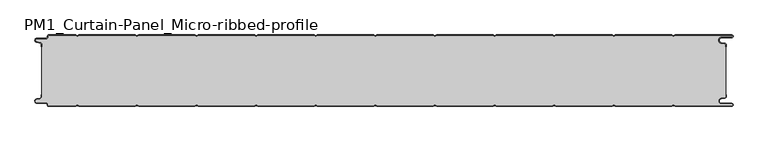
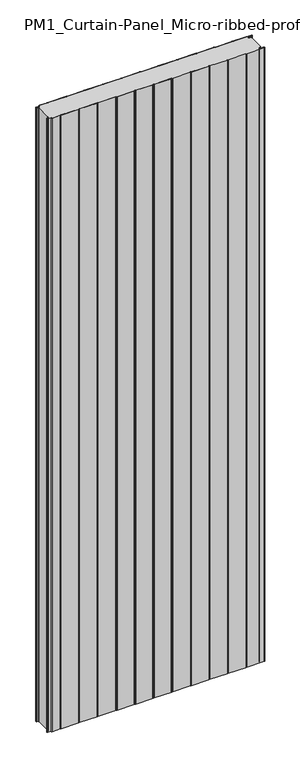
"""IFC4 building model written with IfcOpenShell, lengths in millimetres: plate geometry, PM1_Curtain-Panel_Micro-ribbed-profile : ACH_PM1_Stone-wool-Panel_120M."""

from ifc_helpers import new_model, si_unit, point, frame_2d, origin, origin_with_axes, place, context, project, spatial, polyline, circle_curve, trimmed, segment, composite_curve, outline, extrude, source, transform, mapped, element, save


def pm1_curtain_panel_micro_ribbed_profile_324b2d25(model_context):
    return source(origin(), model_context, "Body", "SweptSolid", [
        extrude(outline(composite_curve([segment(trimmed(circle_curve(frame_2d((-577.0, -15.878557)), 2.0), [point((-575.0, -15.878557))], [point((-576.5500978, -13.9298169))], True, "CARTESIAN"), True, "CONTINUOUS"), segment(polyline([(-576.5500978, -13.9298169), (-582.7098239, -12.507732)]), True, "CONTINUOUS"), segment(trimmed(circle_curve(frame_2d((-581.9, -9.0)), 3.6), [point((-582.7098239, -12.507732))], [point((-581.9, -5.4))], False, "CARTESIAN"), True, "CONTINUOUS"), segment(polyline([(-581.9, -5.4), (-566.4, -5.4)]), True, "CONTINUOUS"), segment(trimmed(circle_curve(frame_2d((-566.4, -3.4)), 2.0), [point((-566.4, -5.4))], [point((-564.4, -3.4))], True, "CARTESIAN"), True, "CONTINUOUS"), segment(polyline([(-564.4, -3.4), (-564.4, -2.0)]), True, "CONTINUOUS"), segment(trimmed(circle_curve(frame_2d((-562.4, -2.0)), 2.0), [point((-564.4, -2.0))], [point((-562.4, 0.0))], False, "CARTESIAN"), True, "CONTINUOUS"), segment(polyline([(-562.4, 0.0), (-517.0999995, 0.0), (-514.4, -1.5588455), (-511.7000005, 0.0), (-417.0999995, 0.0), (-414.4, -1.5588455), (-411.7000005, 0.0), (-317.0999995, 0.0), (-314.4, -1.5588455), (-311.7000005, 0.0), (-217.0999995, 0.0), (-214.4, -1.5588455), (-211.7000005, 0.0), (-117.0999995, 0.0), (-114.4, -1.5588455), (-111.7000005, 0.0), (-17.0999995, 0.0), (-14.4, -1.5588455), (-11.7000005, 0.0), (82.9000005, 0.0), (85.6, -1.5588455), (88.2999995, 0.0), (182.9000005, 0.0), (185.6, -1.5588455), (188.2999995, 0.0), (282.9000005, 0.0), (285.6, -1.5588455), (288.2999995, 0.0), (382.9000005, 0.0), (385.6, -1.5588455), (388.2999995, 0.0), (482.9000005, 0.0), (485.6, -1.5588455), (488.2999995, 0.0), (583.1, 0.0)]), True, "CONTINUOUS"), segment(trimmed(circle_curve(frame_2d((583.1, -2.5)), 2.5), [point((583.1, 0.0))], [point((583.1, -5.0))], False, "CARTESIAN"), True, "CONTINUOUS"), segment(polyline([(583.1, -5.0), (566.1, -5.0)]), True, "CONTINUOUS"), segment(trimmed(circle_curve(frame_2d((566.1, -9.0)), 4.0), [point((566.1, -5.0))], [point((565.405407, -12.939231))], True, "CARTESIAN"), True, "CONTINUOUS"), segment(polyline([(565.405407, -12.939231), (571.8514855, -14.0758491)]), True, "CONTINUOUS"), segment(trimmed(circle_curve(frame_2d((571.4, -16.6363492)), 2.6), [point((571.8514855, -14.0758491))], [point((574.0, -16.6363492))], False, "CARTESIAN"), True, "CONTINUOUS"), segment(polyline([(574.0, -16.6363492), (574.0, -20.0), (573.2, -20.0), (573.2, -16.6363492)]), True, "CONTINUOUS"), segment(trimmed(circle_curve(frame_2d((571.4, -16.6363492)), 1.8), [point((573.2, -16.6363492))], [point((571.7125669, -14.8636953))], True, "CARTESIAN"), True, "CONTINUOUS"), segment(polyline([(571.7125669, -14.8636953), (565.2664884, -13.7270772)]), True, "CONTINUOUS"), segment(trimmed(circle_curve(frame_2d((566.1, -9.0)), 4.8), [point((565.2664884, -13.7270772))], [point((566.1, -4.2))], False, "CARTESIAN"), True, "CONTINUOUS"), segment(polyline([(566.1, -4.2), (583.1, -4.2)]), True, "CONTINUOUS"), segment(trimmed(circle_curve(frame_2d((583.1, -2.5)), 1.7), [point((583.1, -4.2))], [point((583.1, -0.8))], True, "CARTESIAN"), True, "CONTINUOUS"), segment(polyline([(583.1, -0.8), (488.5143588, -0.8), (485.6, -2.482606), (482.6856412, -0.8), (388.5143588, -0.8), (385.6, -2.482606), (382.6856412, -0.8), (288.5143588, -0.8), (285.6, -2.482606), (282.6856412, -0.8), (188.5143588, -0.8), (185.6, -2.482606), (182.6856412, -0.8), (88.5143588, -0.8), (85.6, -2.482606), (82.6856412, -0.8), (-11.4856412, -0.8), (-14.4, -2.482606), (-17.3143588, -0.8), (-111.4856412, -0.8), (-114.4, -2.482606), (-117.3143588, -0.8), (-211.4856412, -0.8), (-214.4, -2.482606), (-217.3143588, -0.8), (-311.4856412, -0.8), (-314.4, -2.482606), (-317.3143588, -0.8), (-411.4856412, -0.8), (-414.4, -2.482606), (-417.3143588, -0.8), (-511.4856412, -0.8), (-514.4, -2.482606), (-517.3143588, -0.8), (-562.4, -0.8)]), True, "CONTINUOUS"), segment(trimmed(circle_curve(frame_2d((-562.4, -2.0)), 1.2), [point((-562.4, -0.8))], [point((-563.6, -2.0))], True, "CARTESIAN"), True, "CONTINUOUS"), segment(polyline([(-563.6, -2.0), (-563.6, -3.4)]), True, "CONTINUOUS"), segment(trimmed(circle_curve(frame_2d((-566.4, -3.4)), 2.8), [point((-563.6, -3.4))], [point((-566.4, -6.2))], False, "CARTESIAN"), True, "CONTINUOUS"), segment(polyline([(-566.4, -6.2), (-581.9, -6.2)]), True, "CONTINUOUS"), segment(trimmed(circle_curve(frame_2d((-581.9, -9.0)), 2.8), [point((-581.9, -6.2))], [point((-582.529863, -11.7282362))], True, "CARTESIAN"), True, "CONTINUOUS"), segment(polyline([(-582.529863, -11.7282362), (-576.370137, -13.150321)]), True, "CONTINUOUS"), segment(trimmed(circle_curve(frame_2d((-577.0, -15.878557)), 2.8), [point((-576.370137, -13.150321))], [point((-574.2, -15.878557))], False, "CARTESIAN"), True, "CONTINUOUS"), segment(polyline([(-574.2, -15.878557), (-574.2, -20.0), (-575.0, -20.0), (-575.0, -15.878557)]), True, "CONTINUOUS")], self_intersect=False)), origin_with_axes(), (0.0, 0.0, 1.0), 3500.0),
        extrude(outline(composite_curve([segment(polyline([(-574.2, -104.1214426), (-574.2, -15.8785573)]), True, "CONTINUOUS"), segment(trimmed(circle_curve(frame_2d((-577.0, -15.8785573)), 2.8), [point((-574.2, -15.8785573))], [point((-576.370137, -13.1503212))], True, "CARTESIAN"), True, "CONTINUOUS"), segment(polyline([(-576.370137, -13.1503212), (-582.5298631, -11.7282362)]), True, "CONTINUOUS"), segment(trimmed(circle_curve(frame_2d((-581.9, -9.0)), 2.8), [point((-582.5298631, -11.7282362))], [point((-581.9, -6.2))], False, "CARTESIAN"), True, "CONTINUOUS"), segment(polyline([(-581.9, -6.2), (-566.4000001, -6.2)]), True, "CONTINUOUS"), segment(trimmed(circle_curve(frame_2d((-566.4000001, -3.4)), 2.8), [point((-566.4000001, -6.2))], [point((-563.6000001, -3.4))], True, "CARTESIAN"), True, "CONTINUOUS"), segment(polyline([(-563.6000001, -3.4), (-563.6000001, -2.0)]), True, "CONTINUOUS"), segment(trimmed(circle_curve(frame_2d((-562.4000001, -2.0)), 1.2), [point((-563.6000001, -2.0))], [point((-562.4000001, -0.8))], False, "CARTESIAN"), True, "CONTINUOUS"), segment(polyline([(-562.4000001, -0.8), (-517.3143589, -0.8), (-514.4000001, -2.482606), (-511.4856412, -0.8), (-417.3143589, -0.8), (-414.4000001, -2.482606), (-411.4856412, -0.8), (-317.3143589, -0.8), (-314.4000001, -2.482606), (-311.4856412, -0.8), (-217.3143589, -0.8), (-214.4000001, -2.482606), (-211.4856412, -0.8), (-117.3143589, -0.8), (-114.4000001, -2.482606), (-111.4856412, -0.8), (-17.3143589, -0.8), (-14.4000001, -2.482606), (-11.4856412, -0.8), (82.6856411, -0.8), (85.5999999, -2.482606), (88.5143588, -0.8), (182.6856411, -0.8), (185.5999999, -2.482606), (188.5143588, -0.8), (282.6856411, -0.8), (285.5999999, -2.482606), (288.5143588, -0.8), (382.6856411, -0.8), (385.5999999, -2.482606), (388.5143588, -0.8), (482.6856411, -0.8), (485.6, -2.482606), (488.5143588, -0.8), (583.1, -0.8)]), True, "CONTINUOUS"), segment(trimmed(circle_curve(frame_2d((583.1, -2.5)), 1.7), [point((583.1, -0.8))], [point((583.1, -4.2))], False, "CARTESIAN"), True, "CONTINUOUS"), segment(polyline([(583.1, -4.2), (566.1, -4.2)]), True, "CONTINUOUS"), segment(trimmed(circle_curve(frame_2d((566.1, -9.0)), 4.8), [point((566.1, -4.2))], [point((565.2664883, -13.7270771))], True, "CARTESIAN"), True, "CONTINUOUS"), segment(polyline([(565.2664883, -13.7270771), (571.7125668, -14.8636953)]), True, "CONTINUOUS"), segment(trimmed(circle_curve(frame_2d((571.4, -16.6363492)), 1.8), [point((571.7125668, -14.8636953))], [point((573.2, -16.6363492))], False, "CARTESIAN"), True, "CONTINUOUS"), segment(polyline([(573.2, -16.6363492), (573.2, -103.3636508)]), True, "CONTINUOUS"), segment(trimmed(circle_curve(frame_2d((571.4, -103.3636508)), 1.8), [point((573.2, -103.3636508))], [point((571.7125668, -105.1363047))], False, "CARTESIAN"), True, "CONTINUOUS"), segment(polyline([(571.7125668, -105.1363047), (565.2664883, -106.2729229)]), True, "CONTINUOUS"), segment(trimmed(circle_curve(frame_2d((566.1, -111.0)), 4.8), [point((565.2664883, -106.2729229))], [point((566.1, -115.8))], True, "CARTESIAN"), True, "CONTINUOUS"), segment(polyline([(566.1, -115.8), (583.1, -115.8)]), True, "CONTINUOUS"), segment(trimmed(circle_curve(frame_2d((583.1, -117.5)), 1.7), [point((583.1, -115.8))], [point((583.1, -119.2))], False, "CARTESIAN"), True, "CONTINUOUS"), segment(polyline([(583.1, -119.2), (488.5143588, -119.2), (485.6, -117.517394), (482.6856411, -119.2), (388.5143588, -119.2), (385.5999999, -117.517394), (382.6856411, -119.2), (288.5143588, -119.2), (285.5999999, -117.517394), (282.6856411, -119.2), (188.5143588, -119.2), (185.5999999, -117.517394), (182.6856411, -119.2), (88.5143588, -119.2), (85.5999999, -117.517394), (82.6856411, -119.2), (-11.4856412, -119.2), (-14.4000001, -117.517394), (-17.3143589, -119.2), (-111.4856412, -119.2), (-114.4000001, -117.517394), (-117.3143589, -119.2), (-211.4856412, -119.2), (-214.4000001, -117.517394), (-217.3143589, -119.2), (-311.4856412, -119.2), (-314.4000001, -117.517394), (-317.3143589, -119.2), (-411.4856412, -119.2), (-414.4000001, -117.517394), (-417.3143589, -119.2), (-511.4856412, -119.2), (-514.4000001, -117.517394), (-517.3143589, -119.2), (-562.4000001, -119.2)]), True, "CONTINUOUS"), segment(trimmed(circle_curve(frame_2d((-562.4000001, -118.0)), 1.2), [point((-562.4000001, -119.2))], [point((-563.6000001, -118.0))], False, "CARTESIAN"), True, "CONTINUOUS"), segment(polyline([(-563.6000001, -118.0), (-563.6000001, -116.6)]), True, "CONTINUOUS"), segment(trimmed(circle_curve(frame_2d((-566.4000001, -116.6)), 2.8), [point((-563.6000001, -116.6))], [point((-566.4000001, -113.8))], True, "CARTESIAN"), True, "CONTINUOUS"), segment(polyline([(-566.4000001, -113.8), (-581.9, -113.8)]), True, "CONTINUOUS"), segment(trimmed(circle_curve(frame_2d((-581.9, -111.0)), 2.8), [point((-581.9, -113.8))], [point((-582.5298631, -108.2717638))], False, "CARTESIAN"), True, "CONTINUOUS"), segment(polyline([(-582.5298631, -108.2717638), (-576.370137, -106.8496788)]), True, "CONTINUOUS"), segment(trimmed(circle_curve(frame_2d((-577.0, -104.1214426)), 2.8), [point((-576.370137, -106.8496788))], [point((-574.2, -104.1214426))], True, "CARTESIAN"), True, "CONTINUOUS")], self_intersect=False)), origin_with_axes(), (0.0, 0.0, 1.0), 3500.0),
        extrude(outline(composite_curve([segment(polyline([(-575.0, -104.121443), (-575.0, -100.0), (-574.2, -100.0), (-574.2, -104.121443)]), True, "CONTINUOUS"), segment(trimmed(circle_curve(frame_2d((-577.0, -104.121443)), 2.8), [point((-574.2, -104.121443))], [point((-576.370137, -106.8496792))], False, "CARTESIAN"), True, "CONTINUOUS"), segment(polyline([(-576.370137, -106.8496792), (-582.529863, -108.271764)]), True, "CONTINUOUS"), segment(trimmed(circle_curve(frame_2d((-581.9, -111.0)), 2.8), [point((-582.529863, -108.271764))], [point((-581.9, -113.8))], True, "CARTESIAN"), True, "CONTINUOUS"), segment(polyline([(-581.9, -113.8), (-566.4, -113.8)]), True, "CONTINUOUS"), segment(trimmed(circle_curve(frame_2d((-566.4, -116.6)), 2.8), [point((-566.4, -113.8))], [point((-563.6, -116.6))], False, "CARTESIAN"), True, "CONTINUOUS"), segment(polyline([(-563.6, -116.6), (-563.6, -118.0)]), True, "CONTINUOUS"), segment(trimmed(circle_curve(frame_2d((-562.4, -118.0)), 1.2), [point((-563.6, -118.0))], [point((-562.4, -119.2))], True, "CARTESIAN"), True, "CONTINUOUS"), segment(polyline([(-562.4, -119.2), (-517.3143588, -119.2), (-514.4, -117.517394), (-511.4856412, -119.2), (-417.3143588, -119.2), (-414.4, -117.517394), (-411.4856412, -119.2), (-317.3143588, -119.2), (-314.4, -117.517394), (-311.4856412, -119.2), (-217.3143588, -119.2), (-214.4, -117.517394), (-211.4856412, -119.2), (-117.3143588, -119.2), (-114.4, -117.517394), (-111.4856412, -119.2), (-17.3143588, -119.2), (-14.4, -117.517394), (-11.4856412, -119.2), (82.6856412, -119.2), (85.6, -117.517394), (88.5143588, -119.2), (182.6856412, -119.2), (185.6, -117.517394), (188.5143588, -119.2), (282.6856412, -119.2), (285.6, -117.517394), (288.5143588, -119.2), (382.6856412, -119.2), (385.6, -117.517394), (388.5143588, -119.2), (482.6856412, -119.2), (485.6, -117.517394), (488.5143588, -119.2), (583.1, -119.2)]), True, "CONTINUOUS"), segment(trimmed(circle_curve(frame_2d((583.1, -117.5)), 1.7), [point((583.1, -119.2))], [point((583.1, -115.8))], True, "CARTESIAN"), True, "CONTINUOUS"), segment(polyline([(583.1, -115.8), (566.1, -115.8)]), True, "CONTINUOUS"), segment(trimmed(circle_curve(frame_2d((566.1, -111.0)), 4.8), [point((566.1, -115.8))], [point((565.2664884, -106.2729229))], False, "CARTESIAN"), True, "CONTINUOUS"), segment(polyline([(565.2664884, -106.2729229), (571.7125669, -105.1363047)]), True, "CONTINUOUS"), segment(trimmed(circle_curve(frame_2d((571.4, -103.3636508)), 1.8), [point((571.7125669, -105.1363047))], [point((573.2, -103.3636508))], True, "CARTESIAN"), True, "CONTINUOUS"), segment(polyline([(573.2, -103.3636508), (573.2, -100.0), (574.0, -100.0), (574.0, -103.3636508)]), True, "CONTINUOUS"), segment(trimmed(circle_curve(frame_2d((571.4, -103.3636508)), 2.6), [point((574.0, -103.3636508))], [point((571.8514855, -105.9241509))], False, "CARTESIAN"), True, "CONTINUOUS"), segment(polyline([(571.8514855, -105.9241509), (565.405407, -107.060769)]), True, "CONTINUOUS"), segment(trimmed(circle_curve(frame_2d((566.1, -111.0)), 4.0), [point((565.405407, -107.060769))], [point((566.1, -115.0))], True, "CARTESIAN"), True, "CONTINUOUS"), segment(polyline([(566.1, -115.0), (583.1, -115.0)]), True, "CONTINUOUS"), segment(trimmed(circle_curve(frame_2d((583.1, -117.5)), 2.5), [point((583.1, -115.0))], [point((583.1, -120.0))], False, "CARTESIAN"), True, "CONTINUOUS"), segment(polyline([(583.1, -120.0), (488.2999995, -120.0), (485.6, -118.4411545), (482.9000005, -120.0), (388.2999995, -120.0), (385.6, -118.4411545), (382.9000005, -120.0), (288.2999995, -120.0), (285.6, -118.4411545), (282.9000005, -120.0), (188.2999995, -120.0), (185.6, -118.4411545), (182.9000005, -120.0), (88.2999995, -120.0), (85.6, -118.4411545), (82.9000005, -120.0), (-11.7000005, -120.0), (-14.4, -118.4411545), (-17.0999995, -120.0), (-111.7000005, -120.0), (-114.4, -118.4411545), (-117.0999995, -120.0), (-211.7000005, -120.0), (-214.4, -118.4411545), (-217.0999995, -120.0), (-311.7000005, -120.0), (-314.4, -118.4411545), (-317.0999995, -120.0), (-411.7000005, -120.0), (-414.4, -118.4411545), (-417.0999995, -120.0), (-511.7000005, -120.0), (-514.4, -118.4411545), (-517.0999995, -120.0), (-562.4, -120.0)]), True, "CONTINUOUS"), segment(trimmed(circle_curve(frame_2d((-562.4, -118.0)), 2.0), [point((-562.4, -120.0))], [point((-564.4, -118.0))], False, "CARTESIAN"), True, "CONTINUOUS"), segment(polyline([(-564.4, -118.0), (-564.4, -116.6)]), True, "CONTINUOUS"), segment(trimmed(circle_curve(frame_2d((-566.4, -116.6)), 2.0), [point((-564.4, -116.6))], [point((-566.4, -114.6))], True, "CARTESIAN"), True, "CONTINUOUS"), segment(polyline([(-566.4, -114.6), (-581.9, -114.6)]), True, "CONTINUOUS"), segment(trimmed(circle_curve(frame_2d((-581.9, -111.0)), 3.6), [point((-581.9, -114.6))], [point((-582.7098239, -107.4922678))], False, "CARTESIAN"), True, "CONTINUOUS"), segment(polyline([(-582.7098239, -107.4922678), (-576.5500979, -106.070183)]), True, "CONTINUOUS"), segment(trimmed(circle_curve(frame_2d((-577.0, -104.121443)), 2.0), [point((-576.5500979, -106.070183))], [point((-575.0, -104.121443))], True, "CARTESIAN"), True, "CONTINUOUS")], self_intersect=False)), origin_with_axes(), (0.0, 0.0, 1.0), 3500.0),
    ])


if __name__ == "__main__":
    model = new_model("IFC4")
    model_context = context("Model", 3, world=origin())
    ifc_project = project(units=[si_unit("LENGTHUNIT", "METRE", prefix="MILLI")], contexts=[model_context])
    site = spatial("IfcSite", under=ifc_project)
    building = spatial("IfcBuilding", under=site)
    placement = place(None, origin())
    pm1_curtain_panel_micro_ribbed_profile_shape = pm1_curtain_panel_micro_ribbed_profile_324b2d25(model_context)
    element("IfcPlate", 1, ObjectType="PM1_Curtain-Panel_Micro-ribbed-profile : ACH_PM1_Stone-wool-Panel_120M", at=placement, inside=building, context=model_context, shape_type="MappedRepresentation", body=[
        mapped(pm1_curtain_panel_micro_ribbed_profile_shape, transform((0.0, 0.0, 0.0), x_axis=(1.0, 0.0, 0.0), y_axis=(0.0, 1.0, 0.0), z_axis=(0.0, 0.0, 1.0))),
    ])
    save(model, "model.ifc")
